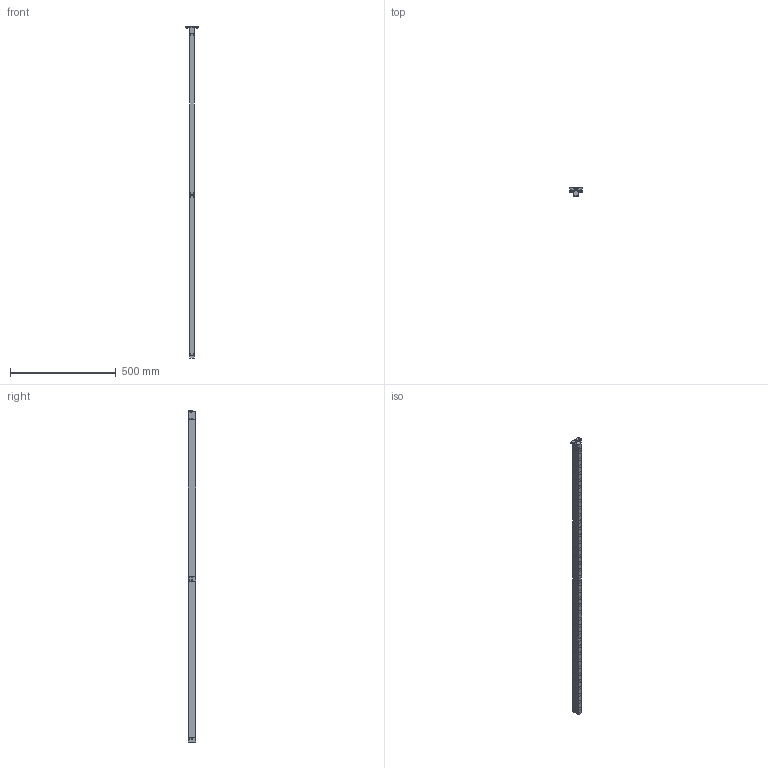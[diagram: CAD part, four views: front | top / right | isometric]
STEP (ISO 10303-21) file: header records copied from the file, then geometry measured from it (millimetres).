
FILE_DESCRIPTION(/* description */ (''),/* implementation_level */ '2;1');
FILE_NAME(/* name */ 'S:\EASCN Vault\Designs\Standard Part\DIE LIFTERS\EHB\EHB- 3D step\EHB22 - 3D step complete serie\EHB 22-38.stp',/* time_stamp */ '2019-11-21T15:43:49+08:00',/* author */ ('yue.yang'),/* organization */ (''),/* preprocessor_version */ 'ST-DEVELOPER v17',/* originating_system */ 'Autodesk Inventor 2019',/* authorisation */ '');
FILE_SCHEMA (('AUTOMOTIVE_DESIGN { 1 0 10303 214 3 1 1 }'));
Length unit declared in the file: millimetre
Products named in the file (1): EHB 22-38_Shrinkwrap_1
Bounding box: 58 x 37.8 x 1569 mm (x, y, z)
Volume: 1005228.6 mm3; surface area: 399004.7 mm2
Topology: 133 solids, 133 shells, 1283 faces, 3538 edges, 2560 vertices
Faces by surface type: plane 450, cylinder 410, cone 195, torus 190, sphere 38
Full cylindrical faces by diameter (mm): 3 x3, 4.134 x1, 5 x27, 5.5 x5, 6 x40, 6.647 x2, 8 x2, 10 x8, 10.5 x1, 12.2 x38, 16 x38, 16.4 x38, 17.05 x38, 19.05 x38, 19.2 x38
Entity records: 48110 total; most frequent: CARTESIAN_POINT 11971, DIRECTION 7893, ORIENTED_EDGE 6836, AXIS2_PLACEMENT_3D 3497, EDGE_CURVE 3418, VERTEX_POINT 2560, CIRCLE 2211, EDGE_LOOP 1658
